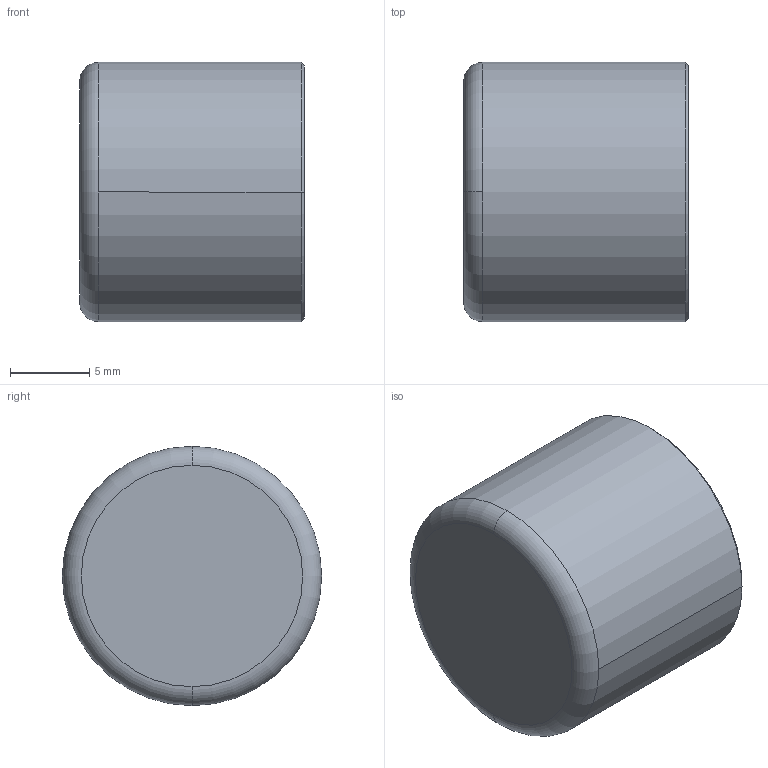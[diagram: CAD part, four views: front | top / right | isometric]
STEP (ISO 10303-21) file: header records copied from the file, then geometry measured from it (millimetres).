
FILE_DESCRIPTION((''),'2;1');
FILE_NAME('C:\sanha_work\5130\f\530115.stp','2005-10-21T18:20:02',('Kris'),(''),'Autodesk Inventor 8','Autodesk Inventor 8','');
FILE_SCHEMA(('AUTOMOTIVE_DESIGN { 1 0 10303 214 1 1 1 1 }'));
Length unit declared in the file: millimetre
Products named in the file (1): 530115
Bounding box: 14.2 x 16.4 x 16.4 mm (x, y, z)
Volume: 599.1 mm3; surface area: 1741.3 mm2
Topology: 1 solids, 1 shells, 15 faces, 34 edges, 22 vertices
Faces by surface type: torus 4, cylinder 4, cone 4, plane 3
Entity records: 461 total; most frequent: DIRECTION 92, CARTESIAN_POINT 72, ORIENTED_EDGE 68, AXIS2_PLACEMENT_3D 42, EDGE_CURVE 34, CIRCLE 26, VERTEX_POINT 22, EDGE_LOOP 16
